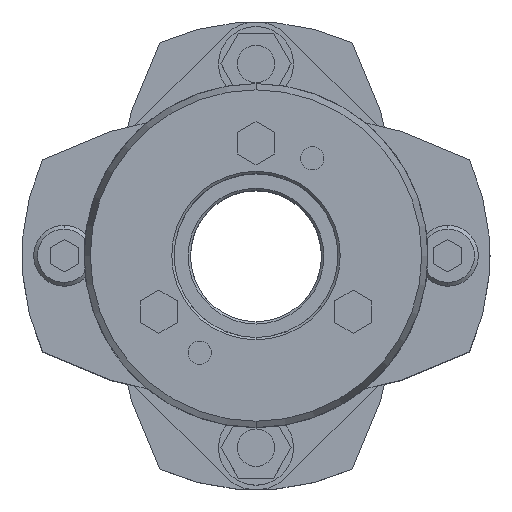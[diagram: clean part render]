
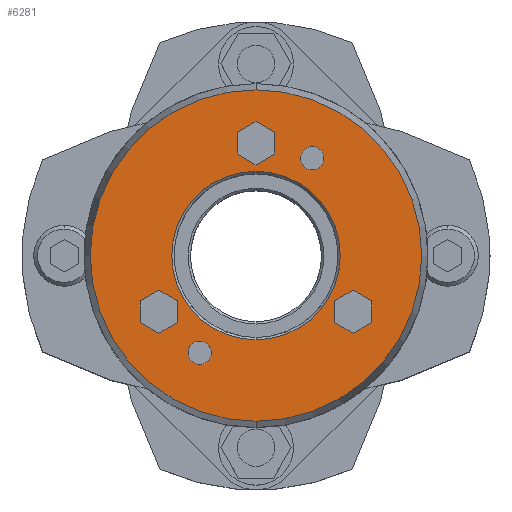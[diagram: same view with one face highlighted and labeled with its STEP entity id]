
A CAD part, top view. The second image highlights one B-rep face of the part: STEP entity #6281.
In plain terms, the highlighted planar face has unit normal (0, 0, 1).
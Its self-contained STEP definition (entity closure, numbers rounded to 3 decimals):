
#1677=CARTESIAN_POINT('',(0.,18.,55.5));
#1678=VERTEX_POINT('',#1677);
#1694=CARTESIAN_POINT('',(0.,-18.,55.5));
#1695=VERTEX_POINT('',#1694);
#1702=CARTESIAN_POINT('',(0.,0.,55.5));
#1703=DIRECTION('',(0.0,0.0,1.0));
#1704=DIRECTION('',(0.0,1.0,0.0));
#1705=AXIS2_PLACEMENT_3D('',#1702,#1703,#1704);
#1706=CIRCLE('',#1705,18.0);
#1707=EDGE_CURVE('',#1695,#1678,#1706,.T.);
#1823=CARTESIAN_POINT('',(0.,-35.41,55.5));
#1824=VERTEX_POINT('',#1823);
#1833=CARTESIAN_POINT('',(0.,35.41,55.5));
#1834=VERTEX_POINT('',#1833);
#1835=CARTESIAN_POINT('',(0.,0.,55.5));
#1836=DIRECTION('',(0.0,0.0,-1.0));
#1837=DIRECTION('',(0.0,-1.0,0.0));
#1838=AXIS2_PLACEMENT_3D('',#1835,#1836,#1837);
#1839=CIRCLE('',#1838,35.41);
#1840=EDGE_CURVE('',#1824,#1834,#1839,.T.);
#2009=CARTESIAN_POINT('',(-12.,-18.285,55.5));
#2010=VERTEX_POINT('',#2009);
#2026=CARTESIAN_POINT('',(-12.,-23.285,55.5));
#2027=VERTEX_POINT('',#2026);
#2034=CARTESIAN_POINT('',(-12.,-20.785,55.5));
#2035=DIRECTION('',(0.0,0.0,-1.0));
#2036=DIRECTION('',(0.0,1.0,0.0));
#2037=AXIS2_PLACEMENT_3D('',#2034,#2035,#2036);
#2038=CIRCLE('',#2037,2.5);
#2039=EDGE_CURVE('',#2010,#2027,#2038,.T.);
#2051=CARTESIAN_POINT('',(12.,23.285,55.5));
#2052=VERTEX_POINT('',#2051);
#2068=CARTESIAN_POINT('',(12.,18.285,55.5));
#2069=VERTEX_POINT('',#2068);
#2076=CARTESIAN_POINT('',(12.,20.785,55.5));
#2077=DIRECTION('',(0.0,0.0,-1.0));
#2078=DIRECTION('',(0.0,1.0,0.0));
#2079=AXIS2_PLACEMENT_3D('',#2076,#2077,#2078);
#2080=CIRCLE('',#2079,2.5);
#2081=EDGE_CURVE('',#2052,#2069,#2080,.T.);
#5190=CARTESIAN_POINT('',(12.,20.785,55.5));
#5191=DIRECTION('',(0.0,0.0,-1.0));
#5192=DIRECTION('',(0.0,1.0,0.0));
#5193=AXIS2_PLACEMENT_3D('',#5190,#5191,#5192);
#5194=CIRCLE('',#5193,2.5);
#5195=EDGE_CURVE('',#2069,#2052,#5194,.T.);
#5224=CARTESIAN_POINT('',(-12.,-20.785,55.5));
#5225=DIRECTION('',(0.0,0.0,-1.0));
#5226=DIRECTION('',(0.0,1.0,0.0));
#5227=AXIS2_PLACEMENT_3D('',#5224,#5225,#5226);
#5228=CIRCLE('',#5227,2.5);
#5229=EDGE_CURVE('',#2027,#2010,#5228,.T.);
#5267=CARTESIAN_POINT('',(20.785,-7.381,55.5));
#5268=VERTEX_POINT('',#5267);
#5275=CARTESIAN_POINT('',(16.785,-9.691,55.5));
#5276=VERTEX_POINT('',#5275);
#5277=CARTESIAN_POINT('',(16.785,-9.691,55.5));
#5278=DIRECTION('',(0.866,0.5,0.0));
#5279=VECTOR('',#5278,4.619);
#5280=LINE('',#5277,#5279);
#5281=EDGE_CURVE('',#5276,#5268,#5280,.T.);
#5305=CARTESIAN_POINT('',(24.785,-9.691,55.5));
#5306=VERTEX_POINT('',#5305);
#5313=CARTESIAN_POINT('',(20.785,-7.381,55.5));
#5314=DIRECTION('',(0.866,-0.5,0.0));
#5315=VECTOR('',#5314,4.619);
#5316=LINE('',#5313,#5315);
#5317=EDGE_CURVE('',#5268,#5306,#5316,.T.);
#5336=CARTESIAN_POINT('',(24.785,-14.309,55.5));
#5337=VERTEX_POINT('',#5336);
#5344=CARTESIAN_POINT('',(24.785,-9.691,55.5));
#5345=DIRECTION('',(0.0,-1.0,0.0));
#5346=VECTOR('',#5345,4.619);
#5347=LINE('',#5344,#5346);
#5348=EDGE_CURVE('',#5306,#5337,#5347,.T.);
#5367=CARTESIAN_POINT('',(20.785,-16.619,55.5));
#5368=VERTEX_POINT('',#5367);
#5375=CARTESIAN_POINT('',(24.785,-14.309,55.5));
#5376=DIRECTION('',(-0.866,-0.5,0.0));
#5377=VECTOR('',#5376,4.619);
#5378=LINE('',#5375,#5377);
#5379=EDGE_CURVE('',#5337,#5368,#5378,.T.);
#5398=CARTESIAN_POINT('',(16.785,-14.309,55.5));
#5399=VERTEX_POINT('',#5398);
#5406=CARTESIAN_POINT('',(20.785,-16.619,55.5));
#5407=DIRECTION('',(-0.866,0.5,0.0));
#5408=VECTOR('',#5407,4.619);
#5409=LINE('',#5406,#5408);
#5410=EDGE_CURVE('',#5368,#5399,#5409,.T.);
#5428=CARTESIAN_POINT('',(16.785,-14.309,55.5));
#5429=DIRECTION('',(0.0,1.0,0.0));
#5430=VECTOR('',#5429,4.619);
#5431=LINE('',#5428,#5430);
#5432=EDGE_CURVE('',#5399,#5276,#5431,.T.);
#5467=CARTESIAN_POINT('',(0.,28.619,55.5));
#5468=VERTEX_POINT('',#5467);
#5475=CARTESIAN_POINT('',(-4.,26.309,55.5));
#5476=VERTEX_POINT('',#5475);
#5477=CARTESIAN_POINT('',(-4.,26.309,55.5));
#5478=DIRECTION('',(0.866,0.5,0.0));
#5479=VECTOR('',#5478,4.619);
#5480=LINE('',#5477,#5479);
#5481=EDGE_CURVE('',#5476,#5468,#5480,.T.);
#5505=CARTESIAN_POINT('',(4.,26.309,55.5));
#5506=VERTEX_POINT('',#5505);
#5513=CARTESIAN_POINT('',(0.,28.619,55.5));
#5514=DIRECTION('',(0.866,-0.5,0.0));
#5515=VECTOR('',#5514,4.619);
#5516=LINE('',#5513,#5515);
#5517=EDGE_CURVE('',#5468,#5506,#5516,.T.);
#5536=CARTESIAN_POINT('',(4.,21.691,55.5));
#5537=VERTEX_POINT('',#5536);
#5544=CARTESIAN_POINT('',(4.,26.309,55.5));
#5545=DIRECTION('',(0.0,-1.0,0.0));
#5546=VECTOR('',#5545,4.619);
#5547=LINE('',#5544,#5546);
#5548=EDGE_CURVE('',#5506,#5537,#5547,.T.);
#5567=CARTESIAN_POINT('',(0.,19.381,55.5));
#5568=VERTEX_POINT('',#5567);
#5575=CARTESIAN_POINT('',(4.,21.691,55.5));
#5576=DIRECTION('',(-0.866,-0.5,0.0));
#5577=VECTOR('',#5576,4.619);
#5578=LINE('',#5575,#5577);
#5579=EDGE_CURVE('',#5537,#5568,#5578,.T.);
#5598=CARTESIAN_POINT('',(-4.,21.691,55.5));
#5599=VERTEX_POINT('',#5598);
#5606=CARTESIAN_POINT('',(0.,19.381,55.5));
#5607=DIRECTION('',(-0.866,0.5,0.0));
#5608=VECTOR('',#5607,4.619);
#5609=LINE('',#5606,#5608);
#5610=EDGE_CURVE('',#5568,#5599,#5609,.T.);
#5628=CARTESIAN_POINT('',(-4.,21.691,55.5));
#5629=DIRECTION('',(0.0,1.0,0.0));
#5630=VECTOR('',#5629,4.619);
#5631=LINE('',#5628,#5630);
#5632=EDGE_CURVE('',#5599,#5476,#5631,.T.);
#5667=CARTESIAN_POINT('',(-20.785,-7.381,55.5));
#5668=VERTEX_POINT('',#5667);
#5675=CARTESIAN_POINT('',(-24.785,-9.691,55.5));
#5676=VERTEX_POINT('',#5675);
#5677=CARTESIAN_POINT('',(-24.785,-9.691,55.5));
#5678=DIRECTION('',(0.866,0.5,0.0));
#5679=VECTOR('',#5678,4.619);
#5680=LINE('',#5677,#5679);
#5681=EDGE_CURVE('',#5676,#5668,#5680,.T.);
#5705=CARTESIAN_POINT('',(-16.785,-9.691,55.5));
#5706=VERTEX_POINT('',#5705);
#5713=CARTESIAN_POINT('',(-20.785,-7.381,55.5));
#5714=DIRECTION('',(0.866,-0.5,0.0));
#5715=VECTOR('',#5714,4.619);
#5716=LINE('',#5713,#5715);
#5717=EDGE_CURVE('',#5668,#5706,#5716,.T.);
#5736=CARTESIAN_POINT('',(-16.785,-14.309,55.5));
#5737=VERTEX_POINT('',#5736);
#5744=CARTESIAN_POINT('',(-16.785,-9.691,55.5));
#5745=DIRECTION('',(0.0,-1.0,0.0));
#5746=VECTOR('',#5745,4.619);
#5747=LINE('',#5744,#5746);
#5748=EDGE_CURVE('',#5706,#5737,#5747,.T.);
#5767=CARTESIAN_POINT('',(-20.785,-16.619,55.5));
#5768=VERTEX_POINT('',#5767);
#5775=CARTESIAN_POINT('',(-16.785,-14.309,55.5));
#5776=DIRECTION('',(-0.866,-0.5,0.0));
#5777=VECTOR('',#5776,4.619);
#5778=LINE('',#5775,#5777);
#5779=EDGE_CURVE('',#5737,#5768,#5778,.T.);
#5798=CARTESIAN_POINT('',(-24.785,-14.309,55.5));
#5799=VERTEX_POINT('',#5798);
#5806=CARTESIAN_POINT('',(-20.785,-16.619,55.5));
#5807=DIRECTION('',(-0.866,0.5,0.0));
#5808=VECTOR('',#5807,4.619);
#5809=LINE('',#5806,#5808);
#5810=EDGE_CURVE('',#5768,#5799,#5809,.T.);
#5828=CARTESIAN_POINT('',(-24.785,-14.309,55.5));
#5829=DIRECTION('',(0.0,1.0,0.0));
#5830=VECTOR('',#5829,4.619);
#5831=LINE('',#5828,#5830);
#5832=EDGE_CURVE('',#5799,#5676,#5831,.T.);
#6220=CARTESIAN_POINT('',(0.,0.,55.5));
#6221=DIRECTION('',(0.0,0.0,-1.0));
#6222=DIRECTION('',(0.0,-1.0,0.0));
#6223=AXIS2_PLACEMENT_3D('',#6220,#6221,#6222);
#6224=CIRCLE('',#6223,35.41);
#6225=EDGE_CURVE('',#1834,#1824,#6224,.T.);
#6230=CARTESIAN_POINT('',(0.,3.114,55.5));
#6231=DIRECTION('',(0.0,0.0,1.0));
#6232=DIRECTION('',(0.0,1.0,0.0));
#6233=AXIS2_PLACEMENT_3D('',#6230,#6231,#6232);
#6234=PLANE('',#6233);
#6235=ORIENTED_EDGE('',*,*,#6225,.F.);
#6236=ORIENTED_EDGE('',*,*,#1840,.F.);
#6237=EDGE_LOOP('',(#6235,#6236));
#6238=FACE_OUTER_BOUND('',#6237,.T.);
#6239=ORIENTED_EDGE('',*,*,#2081,.T.);
#6240=ORIENTED_EDGE('',*,*,#5195,.T.);
#6241=EDGE_LOOP('',(#6239,#6240));
#6242=FACE_BOUND('',#6241,.T.);
#6243=ORIENTED_EDGE('',*,*,#2039,.T.);
#6244=ORIENTED_EDGE('',*,*,#5229,.T.);
#6245=EDGE_LOOP('',(#6243,#6244));
#6246=FACE_BOUND('',#6245,.T.);
#6247=ORIENTED_EDGE('',*,*,#5281,.T.);
#6248=ORIENTED_EDGE('',*,*,#5317,.T.);
#6249=ORIENTED_EDGE('',*,*,#5348,.T.);
#6250=ORIENTED_EDGE('',*,*,#5379,.T.);
#6251=ORIENTED_EDGE('',*,*,#5410,.T.);
#6252=ORIENTED_EDGE('',*,*,#5432,.T.);
#6253=EDGE_LOOP('',(#6247,#6248,#6249,#6250,#6251,#6252));
#6254=FACE_BOUND('',#6253,.T.);
#6255=ORIENTED_EDGE('',*,*,#5481,.T.);
#6256=ORIENTED_EDGE('',*,*,#5517,.T.);
#6257=ORIENTED_EDGE('',*,*,#5548,.T.);
#6258=ORIENTED_EDGE('',*,*,#5579,.T.);
#6259=ORIENTED_EDGE('',*,*,#5610,.T.);
#6260=ORIENTED_EDGE('',*,*,#5632,.T.);
#6261=EDGE_LOOP('',(#6255,#6256,#6257,#6258,#6259,#6260));
#6262=FACE_BOUND('',#6261,.T.);
#6263=ORIENTED_EDGE('',*,*,#5681,.T.);
#6264=ORIENTED_EDGE('',*,*,#5717,.T.);
#6265=ORIENTED_EDGE('',*,*,#5748,.T.);
#6266=ORIENTED_EDGE('',*,*,#5779,.T.);
#6267=ORIENTED_EDGE('',*,*,#5810,.T.);
#6268=ORIENTED_EDGE('',*,*,#5832,.T.);
#6269=EDGE_LOOP('',(#6263,#6264,#6265,#6266,#6267,#6268));
#6270=FACE_BOUND('',#6269,.T.);
#6271=ORIENTED_EDGE('',*,*,#1707,.F.);
#6272=CARTESIAN_POINT('',(0.,0.,55.5));
#6273=DIRECTION('',(0.0,0.0,1.0));
#6274=DIRECTION('',(0.0,1.0,0.0));
#6275=AXIS2_PLACEMENT_3D('',#6272,#6273,#6274);
#6276=CIRCLE('',#6275,18.0);
#6277=EDGE_CURVE('',#1678,#1695,#6276,.T.);
#6278=ORIENTED_EDGE('',*,*,#6277,.F.);
#6279=EDGE_LOOP('',(#6271,#6278));
#6280=FACE_BOUND('',#6279,.T.);
#6281=ADVANCED_FACE('',(#6238,#6242,#6246,#6254,#6262,#6270,#6280),#6234,.T.);
